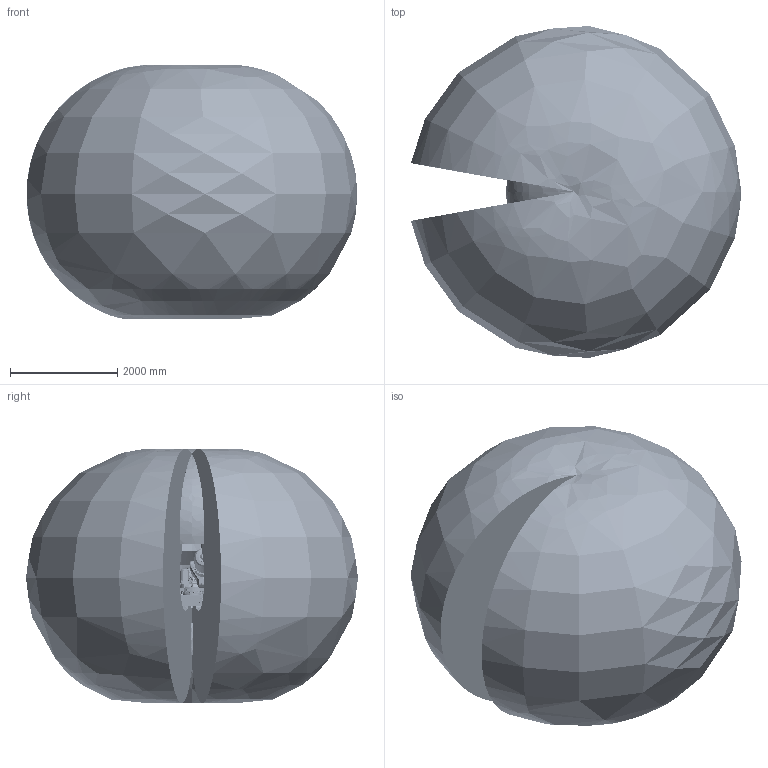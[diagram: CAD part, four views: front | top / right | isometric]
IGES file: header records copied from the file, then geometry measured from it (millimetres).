
Start section: SolidWorks IGES file using analytic representation for surfaces
Global section: file name: C:\DATA\SAP_DOC\LW\IRB 6730S\IRB6730S_270kg-310_OC_01_SW_J\export\IRB6730S_270kg-310_OC_01_IGES_J\IRB6730S_270kg-310_OC_01_ASM_CAD.igs; native system: SolidWorks 2024; preprocessor: SolidWorks 2024; author: SEJOVAS3; date: 260526.123715; units: millimetre
Bounding box: 6161.1 x 6184.96 x 4745.54 mm (x, y, z)
Surface area: 157235123.2 mm2 (no closed solid volume)
Topology: 0 solids, 0 shells, 8223 faces, 137141 edges, 136891 vertices
Faces by surface type: bspline 4661, revolution 3562
